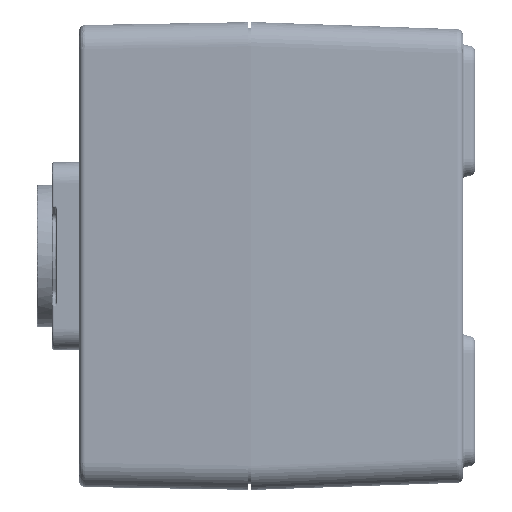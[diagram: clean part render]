
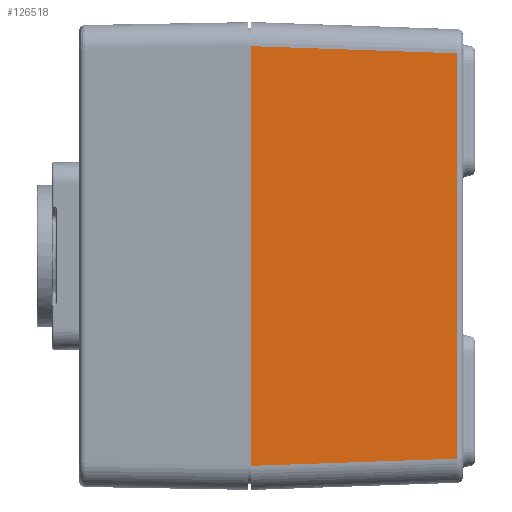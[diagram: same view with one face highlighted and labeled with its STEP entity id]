
A CAD part, left-side view. The second image highlights one B-rep face of the part: STEP entity #126518.
In plain terms, the highlighted planar face has unit normal (-0.999, -0.035, 0).
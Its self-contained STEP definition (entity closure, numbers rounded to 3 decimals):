
#4624 = VERTEX_POINT ( 'NONE', #179735 ) ;
#29595 = CARTESIAN_POINT ( 'NONE',  ( -113.222, 35., 34.725 ) ) ;
#33240 = ORIENTED_EDGE ( 'NONE', *, *, #87425, .T. ) ;
#66365 = LINE ( 'NONE', #279098, #100494 ) ;
#72352 = ORIENTED_EDGE ( 'NONE', *, *, #132871, .T. ) ;
#77263 = ORIENTED_EDGE ( 'NONE', *, *, #101107, .T. ) ;
#87425 = EDGE_CURVE ( 'NONE', #207080, #4624, #251020, .T. ) ;
#100494 = VECTOR ( 'NONE', #301454, 1000. ) ;
#101107 = EDGE_CURVE ( 'NONE', #4624, #141168, #66365, .T. ) ;
#113241 = DIRECTION ( 'NONE',  ( -0.035, 0.999, 0.035 ) ) ;
#113242 = CARTESIAN_POINT ( 'NONE',  ( -111.914, -2.473, -33.416 ) ) ;
#126518 = ADVANCED_FACE ( 'NONE', ( #204569 ), #142557, .T. ) ;
#132387 = VECTOR ( 'NONE', #113241, 1000. ) ;
#132871 = EDGE_CURVE ( 'NONE', #141168, #190276, #197225, .T. ) ;
#134237 = EDGE_LOOP ( 'NONE', ( #72352, #303610, #33240, #77263 ) ) ;
#141168 = VERTEX_POINT ( 'NONE', #157766 ) ;
#141861 = DIRECTION ( 'NONE',  ( 0., 0., -1. ) ) ;
#142557 = PLANE ( 'NONE',  #274808 ) ;
#142903 = CARTESIAN_POINT ( 'NONE',  ( -113.222, 35., 37.5 ) ) ;
#148068 = LINE ( 'NONE', #142903, #308079 ) ;
#148844 = DIRECTION ( 'NONE',  ( 0.035, -0.999, 0. ) ) ;
#150930 = DIRECTION ( 'NONE',  ( -0.999, -0.035, 0. ) ) ;
#157766 = CARTESIAN_POINT ( 'NONE',  ( -112.034, 0.965, 33.536 ) ) ;
#176906 = EDGE_CURVE ( 'NONE', #190276, #207080, #148068, .T. ) ;
#179735 = CARTESIAN_POINT ( 'NONE',  ( -112.034, 0.965, -33.536 ) ) ;
#182666 = VECTOR ( 'NONE', #279318, 1000. ) ;
#190276 = VERTEX_POINT ( 'NONE', #29595 ) ;
#197225 = LINE ( 'NONE', #258986, #132387 ) ;
#204569 = FACE_OUTER_BOUND ( 'NONE', #134237, .T. ) ;
#207080 = VERTEX_POINT ( 'NONE', #252256 ) ;
#221233 = CARTESIAN_POINT ( 'NONE',  ( -112., 0., 37.5 ) ) ;
#251020 = LINE ( 'NONE', #113242, #182666 ) ;
#252256 = CARTESIAN_POINT ( 'NONE',  ( -113.222, 35., -34.725 ) ) ;
#258986 = CARTESIAN_POINT ( 'NONE',  ( -112.005, 0.139, 33.507 ) ) ;
#274808 = AXIS2_PLACEMENT_3D ( 'NONE', #221233, #150930, #148844 ) ;
#279098 = CARTESIAN_POINT ( 'NONE',  ( -112.034, 0.965, 33.502 ) ) ;
#279318 = DIRECTION ( 'NONE',  ( 0.035, -0.999, 0.035 ) ) ;
#301454 = DIRECTION ( 'NONE',  ( 0., 0., 1. ) ) ;
#303610 = ORIENTED_EDGE ( 'NONE', *, *, #176906, .T. ) ;
#308079 = VECTOR ( 'NONE', #141861, 1000. ) ;
